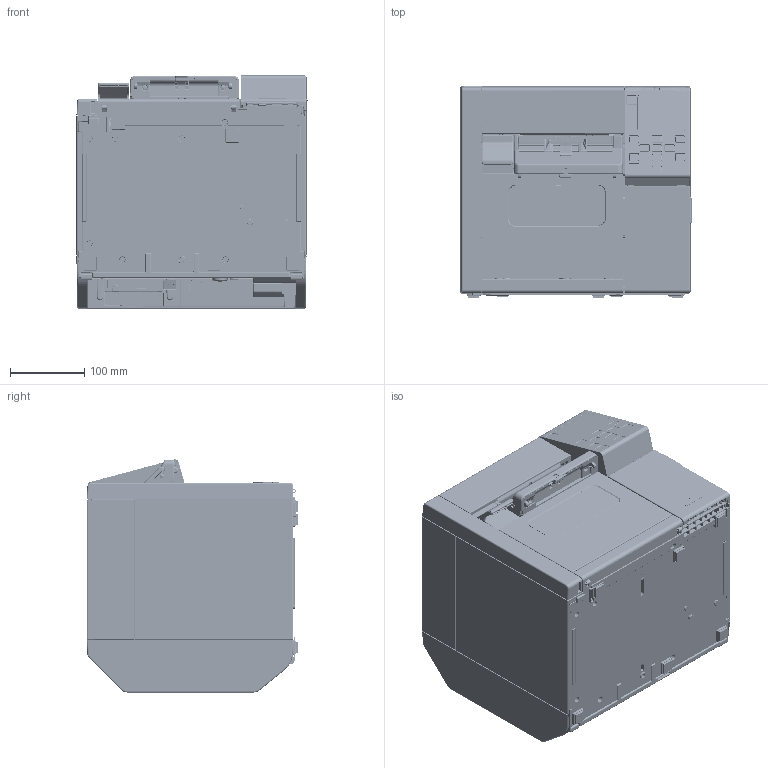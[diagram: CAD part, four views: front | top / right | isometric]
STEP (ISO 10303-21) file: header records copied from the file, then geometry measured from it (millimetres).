
FILE_DESCRIPTION((''),'2;1');
FILE_NAME('DEL-CW-C4000_CLOSE_250131','2025-01-31T15:27:52',('5011256'),(''),'CREO PARAMETRIC BY PTC INC, 2021184','CREO PARAMETRIC BY PTC INC, 2021184','');
FILE_SCHEMA(('AUTOMOTIVE_DESIGN { 1 0 10303 214 1 1 1 1 }'));
Products named in the file (1): DEL-CW-C4000_CLOSE_250131
Bounding box: 311.8 x 284.58 x 314.31 mm (x, y, z)
Surface area: 1785289 mm2 (no closed solid volume)
Topology: 0 solids, 295 shells, 16283 faces, 52887 edges, 35534 vertices
Faces by surface type: plane 8724, cylinder 5459, torus 886, bspline 572, cone 352, sphere 260, extrusion 30
Entity records: 764132 total; most frequent: CARTESIAN_POINT 313784, ORIENTED_EDGE 94825, DIRECTION 86930, EDGE_CURVE 52677, VERTEX_POINT 35533, VECTOR 33188, LINE 33158, AXIS2_PLACEMENT_3D 26871
